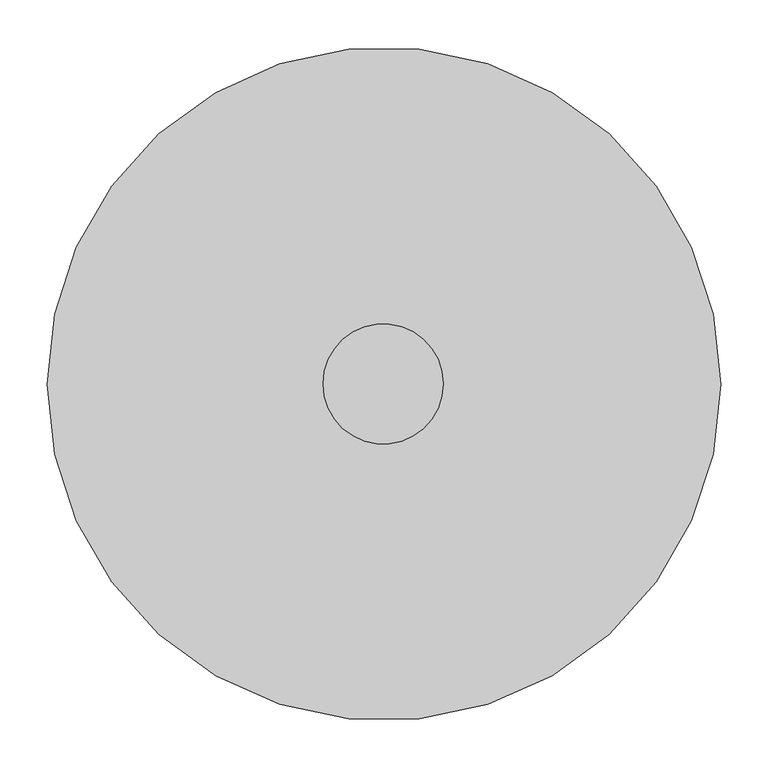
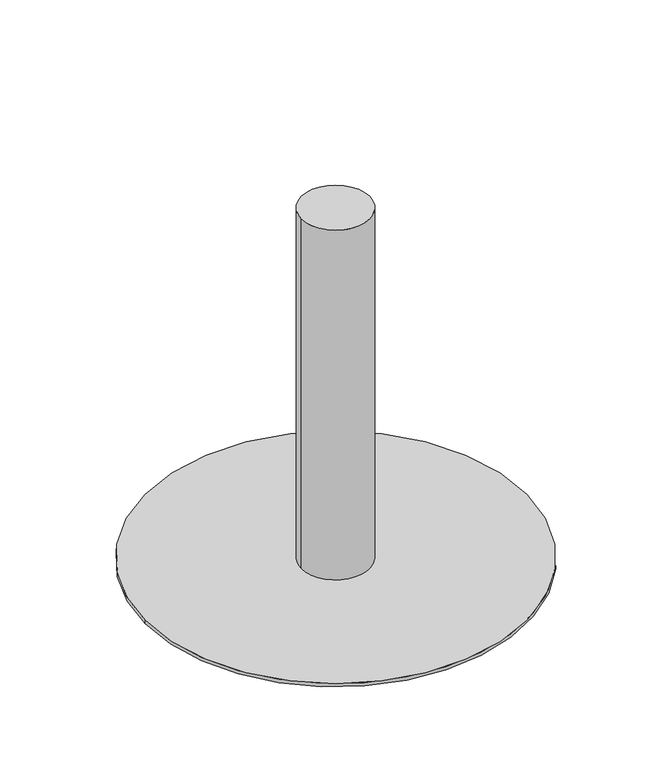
"""IFC4 building model written with IfcOpenShell, lengths in millimetres: furniture geometry, Steelcase - Groupwork - Table - Base : Round Table Base - 27 3/8H x 28dia Base x 5dia Column."""

from ifc_helpers import new_model, si_unit, point, frame, frame_2d, origin, origin_with_axes, origin_2d, place, context, project, spatial, circle_curve, trimmed, segment, composite_curve, outline, extrude, source, transform, mapped, element, save


def furniture_00fd4bd9(model_context):
    return source(origin(), model_context, "Body", "SweptSolid", [
        extrude(outline(composite_curve([segment(trimmed(circle_curve(frame_2d((-0.79375, 0.0)), 63.5), [point((-64.29375, 0.0))], [point((62.70625, 0.0))], False, "CARTESIAN"), True, "CONTINUOUS"), segment(trimmed(circle_curve(frame_2d((-0.79375, 0.0)), 63.5), [point((62.70625, 0.0))], [point((-64.29375, 0.0))], False, "CARTESIAN"), True, "CONTINUOUS")], self_intersect=False)), frame((0.0, 0.0, 6.35), z_axis=(0.0, 0.0, 1.0), x_axis=(1.0, 0.0, 0.0)), (0.0, 0.0, 1.0), 689.102),
        extrude(outline(composite_curve([segment(trimmed(circle_curve(origin_2d(), 355.6), [point((-355.6, 0.0))], [point((355.6, 0.0))], False, "CARTESIAN"), True, "CONTINUOUS"), segment(trimmed(circle_curve(origin_2d(), 355.6), [point((355.6, 0.0))], [point((-355.6, 0.0))], False, "CARTESIAN"), True, "CONTINUOUS")], self_intersect=False)), origin_with_axes(), (0.0, 0.0, 1.0), 6.35),
    ])


if __name__ == "__main__":
    model = new_model("IFC4")
    model_context = context("Model", 3, world=origin())
    ifc_project = project(units=[si_unit("LENGTHUNIT", "METRE", prefix="MILLI")], contexts=[model_context])
    site = spatial("IfcSite", under=ifc_project)
    building = spatial("IfcBuilding", under=site)
    placement = place(None, origin())
    furniture_shape = furniture_00fd4bd9(model_context)
    element("IfcFurniture", 1, ObjectType="Steelcase - Groupwork - Table - Base : Round Table Base - 27 3/8H x 28dia Base x 5dia Column", at=placement, inside=building, context=model_context, shape_type="MappedRepresentation", body=[
        mapped(furniture_shape, transform((0.0, 0.0, 0.0), x_axis=(1.0, 0.0, 0.0), y_axis=(0.0, 1.0, 0.0), z_axis=(0.0, 0.0, 1.0))),
    ])
    save(model, "model.ifc")
